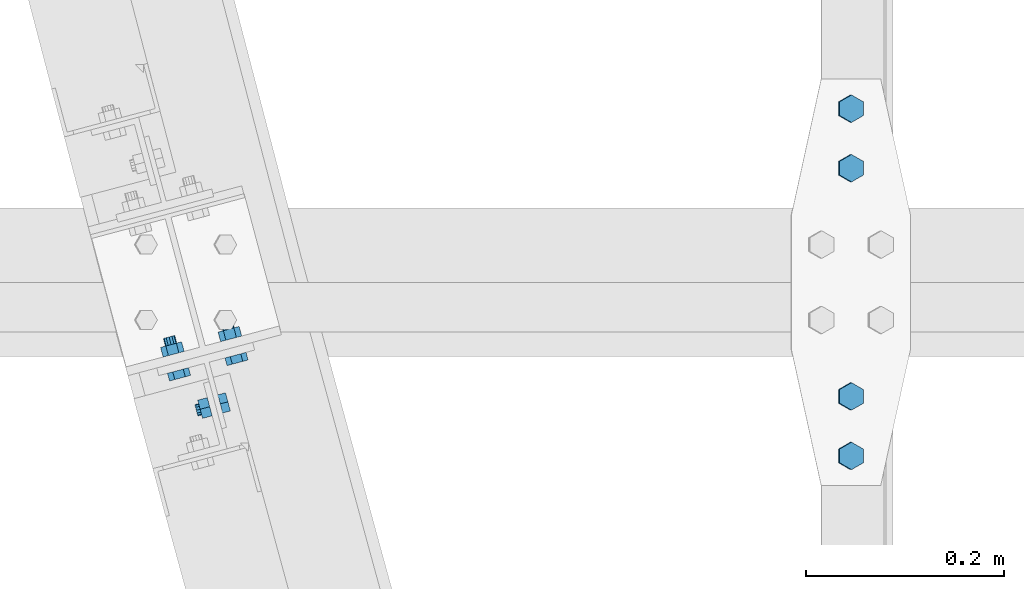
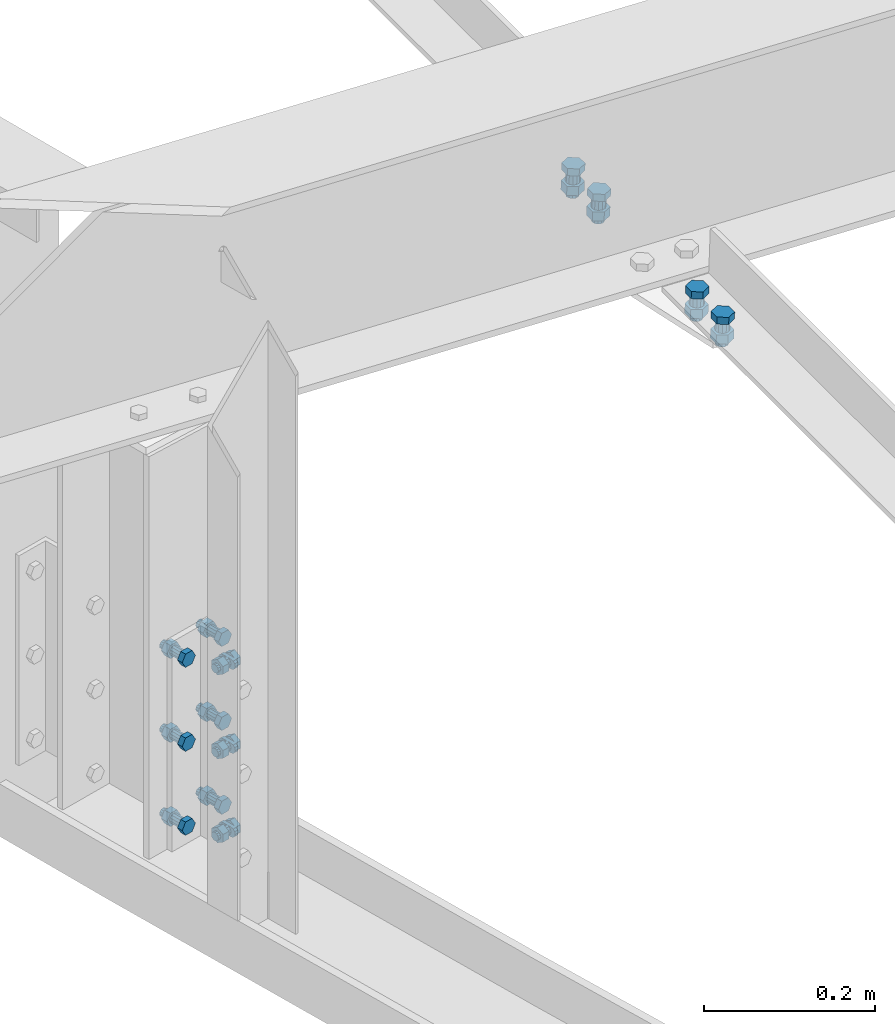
# One storey, part 64 of 3134: 4 mechanical fasteners, 4 elements without a shape of their own.
"""IFC2X3 building model written with IfcOpenShell, lengths in millimetres."""

from ifc_helpers import new_model, si_unit, frame, origin_with_axes, place, context, subcontext, project, spatial, faceted_brep, source, transform, mapped, material, type_object, element, aggregate, save


model = new_model("IFC2X3")

# Units and contexts
model_context = context("Model", 3, precision=1e-05, world=origin_with_axes())
body_context = subcontext(model_context, "Body", "Model", "MODEL_VIEW")
ifc_project = project(units=[si_unit("LENGTHUNIT", "METRE", prefix="MILLI"), si_unit("AREAUNIT", "SQUARE_METRE"), si_unit("VOLUMEUNIT", "CUBIC_METRE"), si_unit("MASSUNIT", "GRAM", prefix="KILO"), si_unit("TIMEUNIT", "SECOND"), si_unit("PLANEANGLEUNIT", "RADIAN"), si_unit("SOLIDANGLEUNIT", "STERADIAN"), si_unit("THERMODYNAMICTEMPERATUREUNIT", "DEGREE_CELSIUS"), si_unit("LUMINOUSINTENSITYUNIT", "LUMEN")], contexts=[model_context])

# Site, building, storey
site_placement = place(None, origin_with_axes())
site = spatial("IfcSite", under=ifc_project, at=site_placement, CompositionType="ELEMENT")
building_placement = place(site_placement, origin_with_axes())
building = spatial("IfcBuilding", under=site, at=building_placement, Name="Undefined", CompositionType="ELEMENT")
storey_placement = place(building_placement, origin_with_axes())
storey = spatial("IfcBuildingStorey", under=building, at=storey_placement, Name="Undefined", CompositionType="ELEMENT", Elevation=0.0)

# Assembly, mechanical fastener
assembly_1_placement = place(storey_placement, origin_with_axes())
assembly_1 = element("IfcElementAssembly", 1, at=assembly_1_placement, inside=storey, AssemblyPlace="NOTDEFINED", PredefinedType="RIGID_FRAME")
ifc_material = material(Name="8.8")
mechanical_fastener_type = type_object("IfcMechanicalFastenerType", Name="Bolt assembly")
shared_shape_1 = source(origin_with_axes(), body_context, "Body", "Brep", [
    faceted_brep([(10.9696551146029, -10.499999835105, 0.0), (5.48482755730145, -10.499999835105, 9.5), (-5.48482755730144, -10.499999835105, 9.5), (-10.9696551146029, -10.499999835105, 1.34339530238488e-15), (-5.48482755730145, -10.499999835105, -9.5), (5.48482755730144, -10.499999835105, -9.50000000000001), (5.48482755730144, -2.49999983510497, -9.50000000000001), (-5.48482755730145, -2.49999983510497, -9.5), (-10.9696551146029, -2.49999983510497, 1.34339530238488e-15), (-5.48482755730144, -2.49999983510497, 9.5), (5.48482755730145, -2.49999983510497, 9.5), (10.9696551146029, -2.49999983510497, 0.0), (6.0, -2.49999983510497, 0.0), (5.19615242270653, -2.49999983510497, 3.00000000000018), (2.99999999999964, -2.49999983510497, 5.19615242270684), (-6.21801588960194e-13, -2.49999983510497, 6.0), (-3.00000000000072, -2.49999983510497, 5.19615242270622), (-5.19615242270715, -2.49999983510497, 2.9999999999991), (-6.0, -2.49999983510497, -1.24360317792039e-12), (-5.19615242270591, -2.49999983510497, -3.00000000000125), (-2.99999999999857, -2.49999983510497, -5.19615242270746), (1.85874342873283e-12, -2.49999983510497, -6.0), (3.00000000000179, -2.49999983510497, -5.1961524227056), (5.19615242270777, -2.49999983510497, -2.99999999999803), (5.19615242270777, 22.5, -2.99999999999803), (3.00000000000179, 22.5, -5.1961524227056), (1.85874342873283e-12, 22.5, -6.0), (-2.99999999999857, 22.5, -5.19615242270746), (-5.19615242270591, 22.5, -3.00000000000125), (-6.0, 22.5, -1.24360317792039e-12), (-5.19615242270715, 22.5, 2.9999999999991), (-3.00000000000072, 22.5, 5.19615242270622), (-6.21801588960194e-13, 22.5, 6.0), (2.99999999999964, 22.5, 5.19615242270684), (5.19615242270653, 22.5, 3.00000000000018), (6.0, 22.5, 0.0), (10.9696551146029, 8.50160430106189, 0.0), (5.48482755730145, 8.50160430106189, 9.5), (-5.48482755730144, 8.50160430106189, 9.5), (-10.9696551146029, 8.50160430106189, 1.34339530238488e-15), (-5.48482755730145, 8.50160430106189, -9.5), (5.48482755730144, 8.50160430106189, -9.50000000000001), (5.48482755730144, 18.5016043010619, -9.50000000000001), (-5.48482755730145, 18.5016043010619, -9.5), (-10.9696551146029, 18.5016043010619, 1.34339530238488e-15), (-5.48482755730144, 18.5016043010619, 9.5), (5.48482755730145, 18.5016043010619, 9.5), (10.9696551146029, 18.5016043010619, 0.0)], [[[0, 1, 2, 3, 4, 5]], [[6, 7, 8, 9, 10, 11]], [[0, 11, 10, 1]], [[1, 10, 9, 2]], [[2, 9, 8, 3]], [[3, 8, 7, 4]], [[4, 7, 6, 5]], [[5, 6, 11, 0]], [[12, 13, 14, 15, 16, 17, 18, 19, 20, 21, 22, 23]], [[24, 25, 26, 27, 28, 29, 30, 31, 32, 33, 34, 35]], [[12, 35, 34, 13]], [[13, 34, 33, 14]], [[14, 33, 32, 15]], [[15, 32, 31, 16]], [[16, 31, 30, 17]], [[17, 30, 29, 18]], [[18, 29, 28, 19]], [[19, 28, 27, 20]], [[20, 27, 26, 21]], [[21, 26, 25, 22]], [[22, 25, 24, 23]], [[23, 24, 35, 12]], [[36, 37, 38, 39, 40, 41]], [[42, 43, 44, 45, 46, 47]], [[36, 47, 46, 37]], [[37, 46, 45, 38]], [[38, 45, 44, 39]], [[39, 44, 43, 40]], [[40, 43, 42, 41]], [[41, 42, 47, 36]]]),
    faceted_brep([(7.0, -2.39999983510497, 7.0), (6.46715672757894, -2.39999983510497, 9.6787840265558), (4.94974746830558, -2.39999983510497, 11.9497474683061), (-7.25435187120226e-13, -2.39999983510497, 14.0), (-3.50000000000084, -2.39999983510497, 13.0621778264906), (-6.06217782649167, -2.39999983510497, 10.499999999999), (-7.0, -2.39999983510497, 6.99999999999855), (-7.0, -2.39999983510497, -7.00000000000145), (-6.06217782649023, -2.39999983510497, -10.5000000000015), (-3.49999999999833, -2.39999983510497, -13.062177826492), (2.1685340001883e-12, -2.39999983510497, -14.0), (3.50000000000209, -2.39999983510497, -13.0621778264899), (6.0621778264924, -2.39999983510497, -10.4999999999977), (7.0, -2.39999983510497, -6.9999999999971), (7.0, 2.60000016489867, -6.9999999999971), (6.0621778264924, 2.60000016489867, -10.4999999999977), (3.50000000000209, 2.60000016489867, -13.0621778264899), (2.1685340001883e-12, 2.60000016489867, -14.0), (-3.49999999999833, 2.60000016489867, -13.062177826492), (-6.06217782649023, 2.60000016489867, -10.5000000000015), (-7.0, 2.60000016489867, -7.00000000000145), (-7.0, 2.60000016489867, 6.99999999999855), (-6.06217782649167, 2.60000016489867, 10.499999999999), (-3.50000000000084, 2.60000016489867, 13.0621778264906), (-7.25435187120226e-13, 2.60000016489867, 14.0), (2.67878402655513, 2.60000016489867, 13.4671567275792), (4.94974746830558, 2.60000016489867, 11.9497474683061), (6.46715672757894, 2.60000016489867, 9.6787840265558), (7.0, 2.60000016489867, 7.0), (2.67878402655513, -2.39999983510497, 13.4671567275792), (7.0, 2.40160430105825, 0.0), (6.06217782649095, 2.40160430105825, 3.50000000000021), (3.49999999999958, 2.40160430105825, 6.06217782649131), (-7.25435187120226e-13, 2.40160430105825, 7.0), (-3.50000000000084, 2.40160430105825, 6.06217782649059), (-6.06217782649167, 2.40160430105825, 3.49999999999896), (-7.0, 2.40160430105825, -1.45087037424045e-12), (-6.06217782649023, 2.40160430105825, -3.50000000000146), (-3.49999999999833, 2.40160430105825, -6.06217782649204), (2.1685340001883e-12, 2.40160430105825, -7.0), (3.50000000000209, 2.40160430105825, -6.06217782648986), (6.0621778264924, 2.40160430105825, -3.4999999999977), (6.0621778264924, 8.50160430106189, -3.4999999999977), (3.50000000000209, 8.50160430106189, -6.06217782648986), (2.1685340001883e-12, 8.50160430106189, -7.0), (-3.49999999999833, 8.50160430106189, -6.06217782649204), (-6.06217782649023, 8.50160430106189, -3.50000000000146), (-7.0, 8.50160430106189, -1.45087037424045e-12), (-6.06217782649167, 8.50160430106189, 3.49999999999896), (-3.50000000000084, 8.50160430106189, 6.06217782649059), (-7.25435187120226e-13, 8.50160430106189, 7.0), (3.49999999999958, 8.50160430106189, 6.06217782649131), (6.06217782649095, 8.50160430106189, 3.50000000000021), (7.0, 8.50160430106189, 0.0)], [[[0, 1, 2, 3, 4, 5, 6, 7, 8, 9, 10, 11, 12, 13]], [[14, 15, 16, 17, 18, 19, 20, 21, 22, 23, 24, 25, 26, 27, 28]], [[0, 28, 27, 1]], [[1, 27, 26, 2]], [[2, 26, 25, 29]], [[29, 25, 24, 3]], [[3, 24, 23, 4]], [[4, 23, 22, 5]], [[5, 22, 21, 6]], [[6, 21, 20, 7]], [[7, 20, 19, 8]], [[8, 19, 18, 9]], [[9, 18, 17, 10]], [[10, 17, 16, 11]], [[11, 16, 15, 12]], [[12, 15, 14, 13]], [[13, 14, 28, 0]], [[30, 31, 32, 33, 34, 35, 36, 37, 38, 39, 40, 41]], [[42, 43, 44, 45, 46, 47, 48, 49, 50, 51, 52, 53]], [[30, 53, 52, 31]], [[31, 52, 51, 32]], [[32, 51, 50, 33]], [[33, 50, 49, 34]], [[34, 49, 48, 35]], [[35, 48, 47, 36]], [[36, 47, 46, 37]], [[37, 46, 45, 38]], [[38, 45, 44, 39]], [[39, 44, 43, 40]], [[40, 43, 42, 41]], [[41, 42, 53, 30]]]),
])
mechanical_fastener_1_placement = place(assembly_1_placement, frame((4009.55754565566, 21858.0558894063, 3290.00065963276), z_axis=(-0.257798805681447, 0.966198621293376, 0.0), x_axis=(0.0, 0.0, -1.0)))
mechanical_fastener_1 = element("IfcMechanicalFastener", 2, at=mechanical_fastener_1_placement, type_object=mechanical_fastener_type, material=ifc_material, Name="Bolt assembly", NominalDiameter=12.0, NominalLength=25.0, context=body_context, shape_type="MappedRepresentation", body=[
    mapped(shared_shape_1, transform((0.0, 0.0, 0.0))),
    mapped(shared_shape_1, transform((120.0, 0.0, 0.0))),
    mapped(shared_shape_1, transform((240.0, 0.0, 0.0))),
])
aggregate(assembly_1, [mechanical_fastener_1])

assembly_2_placement = place(storey_placement, origin_with_axes())
assembly_2 = element("IfcElementAssembly", 3, at=assembly_2_placement, inside=storey, Name="HEA160", AssemblyPlace="NOTDEFINED", PredefinedType="RIGID_FRAME")
shared_shape_2 = source(origin_with_axes(), body_context, "Body", "Brep", [
    faceted_brep([(10.9696551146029, -16.0, 0.0), (5.48482755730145, -16.0, 9.5), (-5.48482755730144, -16.0, 9.5), (-10.9696551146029, -16.0, 1.34339530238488e-15), (-5.48482755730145, -16.0, -9.5), (5.48482755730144, -16.0, -9.50000000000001), (5.48482755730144, -8.0, -9.50000000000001), (-5.48482755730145, -8.0, -9.5), (-10.9696551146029, -8.0, 1.34339530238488e-15), (-5.48482755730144, -8.0, 9.5), (5.48482755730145, -8.0, 9.5), (10.9696551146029, -8.0, 0.0), (6.0, -8.0, 0.0), (5.19615242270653, -8.0, 3.00000000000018), (2.99999999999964, -8.0, 5.19615242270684), (-6.21801588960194e-13, -8.0, 6.0), (-3.00000000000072, -8.0, 5.19615242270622), (-5.19615242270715, -8.0, 2.9999999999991), (-6.0, -8.0, -1.24360317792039e-12), (-5.19615242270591, -8.0, -3.00000000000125), (-2.99999999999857, -8.0, -5.19615242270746), (1.85874342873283e-12, -8.0, -6.0), (3.00000000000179, -8.0, -5.1961524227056), (5.19615242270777, -8.0, -2.99999999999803), (5.19615242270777, 27.0, -2.99999999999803), (3.00000000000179, 27.0, -5.1961524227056), (1.85874342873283e-12, 27.0, -6.0), (-2.99999999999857, 27.0, -5.19615242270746), (-5.19615242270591, 27.0, -3.00000000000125), (-6.0, 27.0, -1.24360317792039e-12), (-5.19615242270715, 27.0, 2.9999999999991), (-3.00000000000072, 27.0, 5.19615242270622), (-6.21801588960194e-13, 27.0, 6.0), (2.99999999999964, 27.0, 5.19615242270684), (5.19615242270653, 27.0, 3.00000000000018), (6.0, 27.0, 0.0), (10.9696551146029, 9.00000000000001, 0.0), (5.48482755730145, 9.00000000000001, 9.5), (-5.48482755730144, 9.00000000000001, 9.5), (-10.9696551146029, 9.00000000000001, 1.34339530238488e-15), (-5.48482755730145, 9.00000000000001, -9.5), (5.48482755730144, 9.00000000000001, -9.50000000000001), (5.48482755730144, 19.0, -9.50000000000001), (-5.48482755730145, 19.0, -9.5), (-10.9696551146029, 19.0, 1.34339530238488e-15), (-5.48482755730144, 19.0, 9.5), (5.48482755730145, 19.0, 9.5), (10.9696551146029, 19.0, 0.0)], [[[0, 1, 2, 3, 4, 5]], [[6, 7, 8, 9, 10, 11]], [[0, 11, 10, 1]], [[1, 10, 9, 2]], [[2, 9, 8, 3]], [[3, 8, 7, 4]], [[4, 7, 6, 5]], [[5, 6, 11, 0]], [[12, 13, 14, 15, 16, 17, 18, 19, 20, 21, 22, 23]], [[24, 25, 26, 27, 28, 29, 30, 31, 32, 33, 34, 35]], [[12, 35, 34, 13]], [[13, 34, 33, 14]], [[14, 33, 32, 15]], [[15, 32, 31, 16]], [[16, 31, 30, 17]], [[17, 30, 29, 18]], [[18, 29, 28, 19]], [[19, 28, 27, 20]], [[20, 27, 26, 21]], [[21, 26, 25, 22]], [[22, 25, 24, 23]], [[23, 24, 35, 12]], [[36, 37, 38, 39, 40, 41]], [[42, 43, 44, 45, 46, 47]], [[36, 47, 46, 37]], [[37, 46, 45, 38]], [[38, 45, 44, 39]], [[39, 44, 43, 40]], [[40, 43, 42, 41]], [[41, 42, 47, 36]]]),
    faceted_brep([(7.0, -7.9, 0.0), (6.06217782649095, -7.9, 3.50000000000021), (3.49999999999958, -7.9, 6.06217782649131), (-7.25435187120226e-13, -7.9, 7.0), (-3.50000000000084, -7.9, 6.06217782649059), (-6.06217782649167, -7.9, 3.49999999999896), (-7.0, -7.9, -1.45087037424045e-12), (-6.06217782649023, -7.9, -3.50000000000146), (-3.49999999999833, -7.9, -6.06217782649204), (2.1685340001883e-12, -7.9, -7.0), (3.50000000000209, -7.9, -6.06217782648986), (6.0621778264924, -7.9, -3.4999999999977), (6.0621778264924, 0.0999999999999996, -3.4999999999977), (3.50000000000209, 0.0999999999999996, -6.06217782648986), (2.1685340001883e-12, 0.0999999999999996, -7.0), (-3.49999999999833, 0.0999999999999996, -6.06217782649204), (-6.06217782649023, 0.0999999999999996, -3.50000000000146), (-7.0, 0.0999999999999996, -1.45087037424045e-12), (-6.06217782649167, 0.0999999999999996, 3.49999999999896), (-3.50000000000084, 0.0999999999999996, 6.06217782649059), (-7.25435187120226e-13, 0.0999999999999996, 7.0), (3.49999999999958, 0.0999999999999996, 6.06217782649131), (6.06217782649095, 0.0999999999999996, 3.50000000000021), (7.0, 0.0999999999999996, 0.0), (7.0, -0.1, 0.0), (6.06217782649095, -0.1, 3.50000000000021), (3.49999999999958, -0.1, 6.06217782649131), (-7.25435187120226e-13, -0.1, 7.0), (-3.50000000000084, -0.1, 6.06217782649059), (-6.06217782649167, -0.1, 3.49999999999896), (-7.0, -0.1, -1.45087037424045e-12), (-6.06217782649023, -0.1, -3.50000000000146), (-3.49999999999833, -0.1, -6.06217782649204), (2.1685340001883e-12, -0.1, -7.0), (3.50000000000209, -0.1, -6.06217782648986), (6.0621778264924, -0.1, -3.4999999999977), (6.0621778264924, 9.00000000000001, -3.4999999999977), (3.50000000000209, 9.00000000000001, -6.06217782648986), (2.1685340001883e-12, 9.00000000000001, -7.0), (-3.49999999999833, 9.00000000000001, -6.06217782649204), (-6.06217782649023, 9.00000000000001, -3.50000000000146), (-7.0, 9.00000000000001, -1.45087037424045e-12), (-6.06217782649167, 9.00000000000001, 3.49999999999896), (-3.50000000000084, 9.00000000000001, 6.06217782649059), (-7.25435187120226e-13, 9.00000000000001, 7.0), (3.49999999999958, 9.00000000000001, 6.06217782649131), (6.06217782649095, 9.00000000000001, 3.50000000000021), (7.0, 9.00000000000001, 0.0)], [[[0, 1, 2, 3, 4, 5, 6, 7, 8, 9, 10, 11]], [[12, 13, 14, 15, 16, 17, 18, 19, 20, 21, 22, 23]], [[0, 23, 22, 1]], [[1, 22, 21, 2]], [[2, 21, 20, 3]], [[3, 20, 19, 4]], [[4, 19, 18, 5]], [[5, 18, 17, 6]], [[6, 17, 16, 7]], [[7, 16, 15, 8]], [[8, 15, 14, 9]], [[9, 14, 13, 10]], [[10, 13, 12, 11]], [[11, 12, 23, 0]], [[24, 25, 26, 27, 28, 29, 30, 31, 32, 33, 34, 35]], [[36, 37, 38, 39, 40, 41, 42, 43, 44, 45, 46, 47]], [[24, 47, 46, 25]], [[25, 46, 45, 26]], [[26, 45, 44, 27]], [[27, 44, 43, 28]], [[28, 43, 42, 29]], [[29, 42, 41, 30]], [[30, 41, 40, 31]], [[31, 40, 39, 32]], [[32, 39, 38, 33]], [[33, 38, 37, 34]], [[34, 37, 36, 35]], [[35, 36, 47, 24]]]),
])
mechanical_fastener_2_placement = place(assembly_2_placement, frame((3967.29392745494, 21900.0849716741, 3170.0), z_axis=(0.0, 0.0, 1.0), x_axis=(0.966198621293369, 0.257798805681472, 0.0)))
mechanical_fastener_2 = element("IfcMechanicalFastener", 4, at=mechanical_fastener_2_placement, type_object=mechanical_fastener_type, material=ifc_material, Name="Bolt assembly", NominalDiameter=12.0, NominalLength=35.0, context=body_context, shape_type="MappedRepresentation", body=[
    mapped(shared_shape_2, transform((0.0, 0.0, -120.0))),
    mapped(shared_shape_2, transform((60.0000000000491, 0.0, -120.0))),
    mapped(shared_shape_2, transform((0.0, 0.0, 0.0))),
    mapped(shared_shape_2, transform((59.9999999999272, 0.0, 5.40239852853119e-10))),
    mapped(shared_shape_2, transform((0.0, 0.0, 120.0))),
    mapped(shared_shape_2, transform((60.0000000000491, 0.0, 120.0))),
])
aggregate(assembly_2, [mechanical_fastener_2])

assembly_3_placement = place(storey_placement, origin_with_axes())
assembly_3 = element("IfcElementAssembly", 5, at=assembly_3_placement, inside=storey, Name="PL8", AssemblyPlace="NOTDEFINED", PredefinedType="RIGID_FRAME")
shared_shape_3 = source(origin_with_axes(), body_context, "Body", "Brep", [
    faceted_brep([(13.856406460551, -21.0000017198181, 0.0), (6.92820323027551, -21.0000017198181, 12.0), (-6.92820323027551, -21.0000017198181, 12.0), (-13.856406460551, -21.0000017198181, 1.69692038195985e-15), (-6.92820323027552, -21.0000017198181, -12.0), (6.9282032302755, -21.0000017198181, -12.0), (6.9282032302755, -11.0000017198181, -12.0), (-6.92820323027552, -11.0000017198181, -12.0), (-13.856406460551, -11.0000017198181, 1.69692038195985e-15), (-6.92820323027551, -11.0000017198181, 12.0), (6.92820323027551, -11.0000017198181, 12.0), (13.856406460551, -11.0000017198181, 0.0), (8.0, -11.0000017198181, 0.0), (6.92820323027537, -11.0000017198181, 4.00000000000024), (3.99999999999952, -11.0000017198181, 6.92820323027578), (-8.29068785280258e-13, -11.0000017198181, 8.0), (-4.00000000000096, -11.0000017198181, 6.92820323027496), (-6.9282032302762, -11.0000017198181, 3.99999999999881), (-8.0, -11.0000017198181, -1.65813757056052e-12), (-6.92820323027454, -11.0000017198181, -4.00000000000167), (-3.99999999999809, -11.0000017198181, -6.92820323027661), (2.47832457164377e-12, -11.0000017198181, -8.0), (4.00000000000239, -11.0000017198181, -6.92820323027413), (6.92820323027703, -11.0000017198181, -3.99999999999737), (6.92820323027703, 23.9999999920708, -3.99999999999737), (4.00000000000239, 23.9999999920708, -6.92820323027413), (2.47832457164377e-12, 23.9999999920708, -8.0), (-3.99999999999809, 23.9999999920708, -6.92820323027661), (-6.92820323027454, 23.9999999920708, -4.00000000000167), (-8.0, 23.9999999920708, -1.65813757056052e-12), (-6.9282032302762, 23.9999999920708, 3.99999999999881), (-4.00000000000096, 23.9999999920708, 6.92820323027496), (-8.29068785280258e-13, 23.9999999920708, 8.0), (3.99999999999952, 23.9999999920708, 6.92820323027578), (6.92820323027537, 23.9999999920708, 4.00000000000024), (8.0, 23.9999999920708, 0.0), (13.856406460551, 3.99999999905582, 0.0), (6.92820323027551, 3.99999999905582, 12.0), (-6.92820323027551, 3.99999999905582, 12.0), (-13.856406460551, 3.99999999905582, 1.69692038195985e-15), (-6.92820323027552, 3.99999999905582, -12.0), (6.9282032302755, 3.99999999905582, -12.0), (6.9282032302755, 16.9999999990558, -12.0), (-6.92820323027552, 16.9999999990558, -12.0), (-13.856406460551, 16.9999999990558, 1.69692038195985e-15), (-6.92820323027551, 16.9999999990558, 12.0), (6.92820323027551, 16.9999999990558, 12.0), (13.856406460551, 16.9999999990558, 0.0)], [[[0, 1, 2, 3, 4, 5]], [[6, 7, 8, 9, 10, 11]], [[0, 11, 10, 1]], [[1, 10, 9, 2]], [[2, 9, 8, 3]], [[3, 8, 7, 4]], [[4, 7, 6, 5]], [[5, 6, 11, 0]], [[12, 13, 14, 15, 16, 17, 18, 19, 20, 21, 22, 23]], [[24, 25, 26, 27, 28, 29, 30, 31, 32, 33, 34, 35]], [[12, 35, 34, 13]], [[13, 34, 33, 14]], [[14, 33, 32, 15]], [[15, 32, 31, 16]], [[16, 31, 30, 17]], [[17, 30, 29, 18]], [[18, 29, 28, 19]], [[19, 28, 27, 20]], [[20, 27, 26, 21]], [[21, 26, 25, 22]], [[22, 25, 24, 23]], [[23, 24, 35, 12]], [[36, 37, 38, 39, 40, 41]], [[42, 43, 44, 45, 46, 47]], [[36, 47, 46, 37]], [[37, 46, 45, 38]], [[38, 45, 44, 39]], [[39, 44, 43, 40]], [[40, 43, 42, 41]], [[41, 42, 47, 36]]]),
    faceted_brep([(9.0, -10.9000017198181, 0.0), (7.79422863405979, -10.9000017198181, 4.50000000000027), (4.49999999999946, -10.9000017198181, 7.79422863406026), (-9.3270238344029e-13, -10.9000017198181, 9.0), (-4.50000000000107, -10.9000017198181, 7.79422863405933), (-7.79422863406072, -10.9000017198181, 4.49999999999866), (-9.0, -10.9000017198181, -1.86540476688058e-12), (-7.79422863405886, -10.9000017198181, -4.50000000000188), (-4.49999999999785, -10.9000017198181, -7.79422863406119), (2.78811514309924e-12, -10.9000017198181, -9.0), (4.50000000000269, -10.9000017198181, -7.7942286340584), (7.79422863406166, -10.9000017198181, -4.49999999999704), (7.79422863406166, -3.9, -4.49999999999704), (4.50000000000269, -3.9, -7.7942286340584), (2.78811514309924e-12, -3.9, -9.0), (-4.49999999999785, -3.9, -7.79422863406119), (-7.79422863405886, -3.9, -4.50000000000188), (-9.0, -3.9, -1.86540476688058e-12), (-7.79422863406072, -3.9, 4.49999999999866), (-4.50000000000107, -3.9, 7.79422863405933), (-9.3270238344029e-13, -3.9, 9.0), (4.49999999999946, -3.9, 7.79422863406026), (7.79422863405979, -3.9, 4.50000000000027), (9.0, -3.9, 0.0), (9.0, -4.10000000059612, 0.0), (7.79422863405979, -4.10000000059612, 4.50000000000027), (4.49999999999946, -4.10000000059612, 7.79422863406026), (-9.3270238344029e-13, -4.10000000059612, 9.0), (-4.50000000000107, -4.10000000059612, 7.79422863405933), (-7.79422863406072, -4.10000000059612, 4.49999999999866), (-9.0, -4.10000000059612, -1.86540476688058e-12), (-7.79422863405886, -4.10000000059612, -4.50000000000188), (-4.49999999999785, -4.10000000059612, -7.79422863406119), (2.78811514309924e-12, -4.10000000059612, -9.0), (4.50000000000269, -4.10000000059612, -7.7942286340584), (7.79422863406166, -4.10000000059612, -4.49999999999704), (7.79422863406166, 4.00000375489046, -4.49999999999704), (4.50000000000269, 4.00000375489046, -7.7942286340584), (2.78811514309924e-12, 4.00000375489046, -9.0), (-4.49999999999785, 4.00000375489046, -7.79422863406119), (-7.79422863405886, 4.00000375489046, -4.50000000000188), (-9.0, 4.00000375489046, -1.86540476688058e-12), (-7.79422863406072, 4.00000375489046, 4.49999999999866), (-4.50000000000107, 4.00000375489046, 7.79422863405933), (-9.3270238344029e-13, 4.00000375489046, 9.0), (4.49999999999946, 4.00000375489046, 7.79422863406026), (7.79422863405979, 4.00000375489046, 4.50000000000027), (9.0, 4.00000375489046, 0.0)], [[[0, 1, 2, 3, 4, 5, 6, 7, 8, 9, 10, 11]], [[12, 13, 14, 15, 16, 17, 18, 19, 20, 21, 22, 23]], [[0, 23, 22, 1]], [[1, 22, 21, 2]], [[2, 21, 20, 3]], [[3, 20, 19, 4]], [[4, 19, 18, 5]], [[5, 18, 17, 6]], [[6, 17, 16, 7]], [[7, 16, 15, 8]], [[8, 15, 14, 9]], [[9, 14, 13, 10]], [[10, 13, 12, 11]], [[11, 12, 23, 0]], [[24, 25, 26, 27, 28, 29, 30, 31, 32, 33, 34, 35]], [[36, 37, 38, 39, 40, 41, 42, 43, 44, 45, 46, 47]], [[24, 47, 46, 25]], [[25, 46, 45, 26]], [[26, 45, 44, 27]], [[27, 44, 43, 28]], [[28, 43, 42, 29]], [[29, 42, 41, 30]], [[30, 41, 40, 31]], [[31, 40, 39, 32]], [[32, 39, 38, 33]], [[33, 38, 37, 34]], [[34, 37, 36, 35]], [[35, 36, 47, 24]]]),
])
mechanical_fastener_3_placement = place(assembly_3_placement, frame((4647.50483525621, 22096.25, 3576.15051900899), z_axis=(-0.999388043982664, 0.0, 0.0349791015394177), x_axis=(0.0, 1.0, 0.0)))
mechanical_fastener_3 = element("IfcMechanicalFastener", 6, at=mechanical_fastener_3_placement, type_object=mechanical_fastener_type, material=ifc_material, Name="Bolt assembly", NominalDiameter=16.0, NominalLength=35.0, context=body_context, shape_type="MappedRepresentation", body=[
    mapped(shared_shape_3, transform((0.0, 0.0, 0.0))),
    mapped(shared_shape_3, transform((59.9999999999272, 0.0, 5.40239852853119e-10))),
])
aggregate(assembly_3, [mechanical_fastener_3])

assembly_4_placement = place(storey_placement, origin_with_axes())
assembly_4 = element("IfcElementAssembly", 7, at=assembly_4_placement, inside=storey, AssemblyPlace="NOTDEFINED", PredefinedType="RIGID_FRAME")
shared_shape_4 = source(origin_with_axes(), body_context, "Body", "Brep", [
    faceted_brep([(13.856406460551, -21.0000017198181, 0.0), (6.92820323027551, -21.0000017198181, 12.0), (-6.92820323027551, -21.0000017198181, 12.0), (-13.856406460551, -21.0000017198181, 1.69692038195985e-15), (-6.92820323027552, -21.0000017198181, -12.0), (6.9282032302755, -21.0000017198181, -12.0), (6.9282032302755, -11.0000017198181, -12.0), (-6.92820323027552, -11.0000017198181, -12.0), (-13.856406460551, -11.0000017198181, 1.69692038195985e-15), (-6.92820323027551, -11.0000017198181, 12.0), (6.92820323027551, -11.0000017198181, 12.0), (13.856406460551, -11.0000017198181, 0.0), (8.0, -11.0000017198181, 0.0), (6.92820323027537, -11.0000017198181, 4.00000000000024), (3.99999999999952, -11.0000017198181, 6.92820323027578), (-8.29068785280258e-13, -11.0000017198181, 8.0), (-4.00000000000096, -11.0000017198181, 6.92820323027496), (-6.9282032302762, -11.0000017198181, 3.99999999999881), (-8.0, -11.0000017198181, -1.65813757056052e-12), (-6.92820323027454, -11.0000017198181, -4.00000000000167), (-3.99999999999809, -11.0000017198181, -6.92820323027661), (2.47832457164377e-12, -11.0000017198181, -8.0), (4.00000000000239, -11.0000017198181, -6.92820323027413), (6.92820323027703, -11.0000017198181, -3.99999999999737), (6.92820323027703, 23.9999999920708, -3.99999999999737), (4.00000000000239, 23.9999999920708, -6.92820323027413), (2.47832457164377e-12, 23.9999999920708, -8.0), (-3.99999999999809, 23.9999999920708, -6.92820323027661), (-6.92820323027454, 23.9999999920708, -4.00000000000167), (-8.0, 23.9999999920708, -1.65813757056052e-12), (-6.9282032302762, 23.9999999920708, 3.99999999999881), (-4.00000000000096, 23.9999999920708, 6.92820323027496), (-8.29068785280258e-13, 23.9999999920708, 8.0), (3.99999999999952, 23.9999999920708, 6.92820323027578), (6.92820323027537, 23.9999999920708, 4.00000000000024), (8.0, 23.9999999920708, 0.0), (13.856406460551, 3.99999999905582, 0.0), (6.92820323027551, 3.99999999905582, 12.0), (-6.92820323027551, 3.99999999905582, 12.0), (-13.856406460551, 3.99999999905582, 1.69692038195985e-15), (-6.92820323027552, 3.99999999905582, -12.0), (6.9282032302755, 3.99999999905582, -12.0), (6.9282032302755, 16.9999999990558, -12.0), (-6.92820323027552, 16.9999999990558, -12.0), (-13.856406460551, 16.9999999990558, 1.69692038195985e-15), (-6.92820323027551, 16.9999999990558, 12.0), (6.92820323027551, 16.9999999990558, 12.0), (13.856406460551, 16.9999999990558, 0.0)], [[[0, 1, 2, 3, 4, 5]], [[6, 7, 8, 9, 10, 11]], [[0, 11, 10, 1]], [[1, 10, 9, 2]], [[2, 9, 8, 3]], [[3, 8, 7, 4]], [[4, 7, 6, 5]], [[5, 6, 11, 0]], [[12, 13, 14, 15, 16, 17, 18, 19, 20, 21, 22, 23]], [[24, 25, 26, 27, 28, 29, 30, 31, 32, 33, 34, 35]], [[12, 35, 34, 13]], [[13, 34, 33, 14]], [[14, 33, 32, 15]], [[15, 32, 31, 16]], [[16, 31, 30, 17]], [[17, 30, 29, 18]], [[18, 29, 28, 19]], [[19, 28, 27, 20]], [[20, 27, 26, 21]], [[21, 26, 25, 22]], [[22, 25, 24, 23]], [[23, 24, 35, 12]], [[36, 37, 38, 39, 40, 41]], [[42, 43, 44, 45, 46, 47]], [[36, 47, 46, 37]], [[37, 46, 45, 38]], [[38, 45, 44, 39]], [[39, 44, 43, 40]], [[40, 43, 42, 41]], [[41, 42, 47, 36]]]),
    faceted_brep([(9.0, -4.10000000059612, 0.0), (7.79422863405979, -4.10000000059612, 4.50000000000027), (4.49999999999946, -4.10000000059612, 7.79422863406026), (-9.3270238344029e-13, -4.10000000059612, 9.0), (-4.50000000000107, -4.10000000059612, 7.79422863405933), (-7.79422863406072, -4.10000000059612, 4.49999999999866), (-9.0, -4.10000000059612, -1.86540476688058e-12), (-7.79422863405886, -4.10000000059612, -4.50000000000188), (-4.49999999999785, -4.10000000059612, -7.79422863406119), (2.78811514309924e-12, -4.10000000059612, -9.0), (4.50000000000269, -4.10000000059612, -7.7942286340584), (7.79422863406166, -4.10000000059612, -4.49999999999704), (7.79422863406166, 4.00000375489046, -4.49999999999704), (4.50000000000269, 4.00000375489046, -7.7942286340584), (2.78811514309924e-12, 4.00000375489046, -9.0), (-4.49999999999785, 4.00000375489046, -7.79422863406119), (-7.79422863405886, 4.00000375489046, -4.50000000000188), (-9.0, 4.00000375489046, -1.86540476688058e-12), (-7.79422863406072, 4.00000375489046, 4.49999999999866), (-4.50000000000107, 4.00000375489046, 7.79422863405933), (-9.3270238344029e-13, 4.00000375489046, 9.0), (4.49999999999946, 4.00000375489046, 7.79422863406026), (7.79422863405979, 4.00000375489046, 4.50000000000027), (9.0, 4.00000375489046, 0.0), (9.0, -10.9000017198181, 0.0), (7.79422863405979, -10.9000017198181, 4.50000000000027), (4.49999999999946, -10.9000017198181, 7.79422863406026), (-9.3270238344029e-13, -10.9000017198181, 9.0), (-4.50000000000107, -10.9000017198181, 7.79422863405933), (-7.79422863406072, -10.9000017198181, 4.49999999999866), (-9.0, -10.9000017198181, -1.86540476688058e-12), (-7.79422863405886, -10.9000017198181, -4.50000000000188), (-4.49999999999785, -10.9000017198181, -7.79422863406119), (2.78811514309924e-12, -10.9000017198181, -9.0), (4.50000000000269, -10.9000017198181, -7.7942286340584), (7.79422863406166, -10.9000017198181, -4.49999999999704), (7.79422863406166, -3.9, -4.49999999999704), (4.50000000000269, -3.9, -7.7942286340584), (2.78811514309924e-12, -3.9, -9.0), (-4.49999999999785, -3.9, -7.79422863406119), (-7.79422863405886, -3.9, -4.50000000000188), (-9.0, -3.9, -1.86540476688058e-12), (-7.79422863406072, -3.9, 4.49999999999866), (-4.50000000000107, -3.9, 7.79422863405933), (-9.3270238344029e-13, -3.9, 9.0), (4.49999999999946, -3.9, 7.79422863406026), (7.79422863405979, -3.9, 4.50000000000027), (9.0, -3.9, 0.0)], [[[0, 1, 2, 3, 4, 5, 6, 7, 8, 9, 10, 11]], [[12, 13, 14, 15, 16, 17, 18, 19, 20, 21, 22, 23]], [[0, 23, 22, 1]], [[1, 22, 21, 2]], [[2, 21, 20, 3]], [[3, 20, 19, 4]], [[4, 19, 18, 5]], [[5, 18, 17, 6]], [[6, 17, 16, 7]], [[7, 16, 15, 8]], [[8, 15, 14, 9]], [[9, 14, 13, 10]], [[10, 13, 12, 11]], [[11, 12, 23, 0]], [[24, 25, 26, 27, 28, 29, 30, 31, 32, 33, 34, 35]], [[36, 37, 38, 39, 40, 41, 42, 43, 44, 45, 46, 47]], [[24, 47, 46, 25]], [[25, 46, 45, 26]], [[26, 45, 44, 27]], [[27, 44, 43, 28]], [[28, 43, 42, 29]], [[29, 42, 41, 30]], [[30, 41, 40, 31]], [[31, 40, 39, 32]], [[32, 39, 38, 33]], [[33, 38, 37, 34]], [[34, 37, 36, 35]], [[35, 36, 47, 24]]]),
])
mechanical_fastener_4_placement = place(assembly_4_placement, frame((4647.50483526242, 21806.25, 3576.15051900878), z_axis=(-0.999388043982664, 0.0, 0.0349791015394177), x_axis=(0.0, 1.0, 0.0)))
mechanical_fastener_4 = element("IfcMechanicalFastener", 8, at=mechanical_fastener_4_placement, type_object=mechanical_fastener_type, material=ifc_material, Name="Bolt assembly", NominalDiameter=16.0, NominalLength=35.0, context=body_context, shape_type="MappedRepresentation", body=[
    mapped(shared_shape_4, transform((0.0, 0.0, 0.0))),
    mapped(shared_shape_4, transform((59.9999999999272, 0.0, 5.40239852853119e-10))),
])
aggregate(assembly_4, [mechanical_fastener_4])

save(model, "model.ifc")
